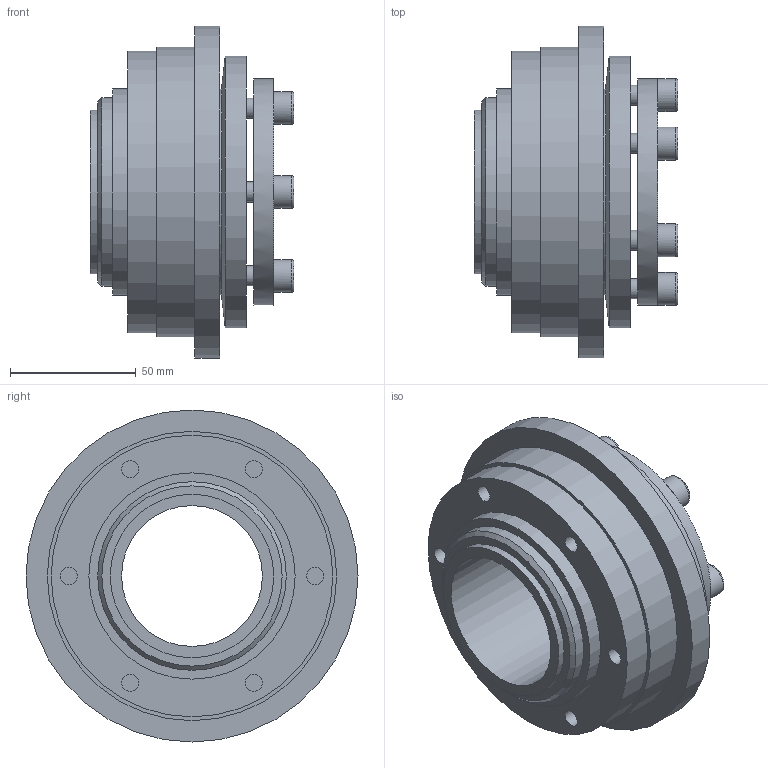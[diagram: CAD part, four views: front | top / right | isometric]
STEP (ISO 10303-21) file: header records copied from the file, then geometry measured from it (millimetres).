
FILE_DESCRIPTION(/* description */ ('STEP AP214'),/* implementation_level */ '2;1');
FILE_NAME(/* name */ 'C:\Diequa Files\DieQua Coupling\TH\STP\TH.300.73.F.#.stp',/* time_stamp */ '2019-02-13T16:13:41-06:00',/* author */ ('DiequaCAD'),/* organization */ (''),/* preprocessor_version */ 'ST-DEVELOPER v17.2',/* originating_system */ 'Autodesk Inventor 2019',/* authorisation */ ' ');
FILE_SCHEMA (('AUTOMOTIVE_DESIGN { 1 0 10303 214 3 1 1 }'));
Length unit declared in the file: millimetre
Products named in the file (1): TH.300.73.F.#
Bounding box: 81 x 132 x 132 mm (x, y, z)
Volume: 446034.5 mm3; surface area: 76409.3 mm2
Topology: 1 solids, 1 shells, 101 faces, 228 edges, 149 vertices
Faces by surface type: plane 64, cylinder 29, torus 6, cone 2
Full cylindrical faces by diameter (mm): 6.8 x6, 8 x6, 13 x6, 56 x2, 65 x1, 75 x1, 82 x2, 90 x1, 108 x1, 112 x1, 115 x1, 132 x1
Entity records: 2917 total; most frequent: DIRECTION 521, CARTESIAN_POINT 479, ORIENTED_EDGE 456, EDGE_CURVE 228, AXIS2_PLACEMENT_3D 191, VERTEX_POINT 149, LINE 139, VECTOR 139
